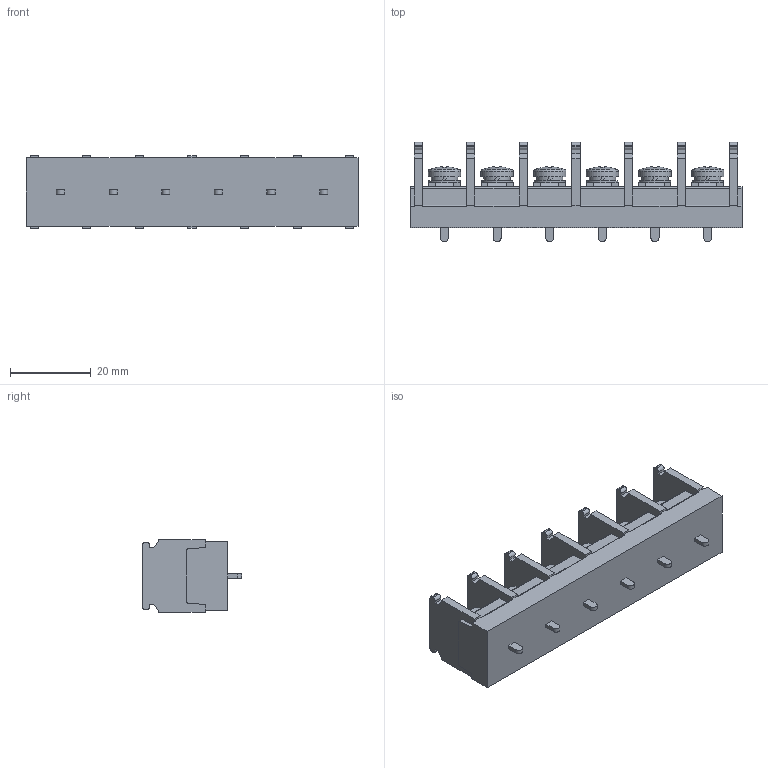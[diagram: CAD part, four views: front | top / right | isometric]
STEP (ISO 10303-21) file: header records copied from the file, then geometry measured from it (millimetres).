
FILE_DESCRIPTION(/* description */ ('Alibre Inc.'),/* implementation_level */ '2;1');
FILE_NAME(/* name */ 'export0',/* time_stamp */ '2016-08-02T19:10:54+09:00',/* author */ (''),/* organization */ (''),/* preprocessor_version */ 'ST-DEVELOPER v14',/* originating_system */ 'Alibre',/* authorisation */ '');
FILE_SCHEMA (('CONFIG_CONTROL_DESIGN'));
Length unit declared in the file: centimetre
Products named in the file (1): ID_1
Bounding box: 82 x 24.5 x 18 mm (x, y, z)
Volume: 16946.8 mm3; surface area: 9165.4 mm2
Topology: 1 solids, 23 shells, 908 faces, 2406 edges, 1588 vertices
Faces by surface type: plane 654, cylinder 108, bspline 104, cone 30, torus 6, sphere 6
Full cylindrical faces by diameter (mm): 4 x6, 6.5 x6, 7.7 x6, 8 x6
Entity records: 26905 total; most frequent: CARTESIAN_POINT 5879, ORIENTED_EDGE 4716, DIRECTION 3356, EDGE_CURVE 2358, VECTOR 1676, LINE 1676, VERTEX_POINT 1570, AXIS2_PLACEMENT_3D 1145
